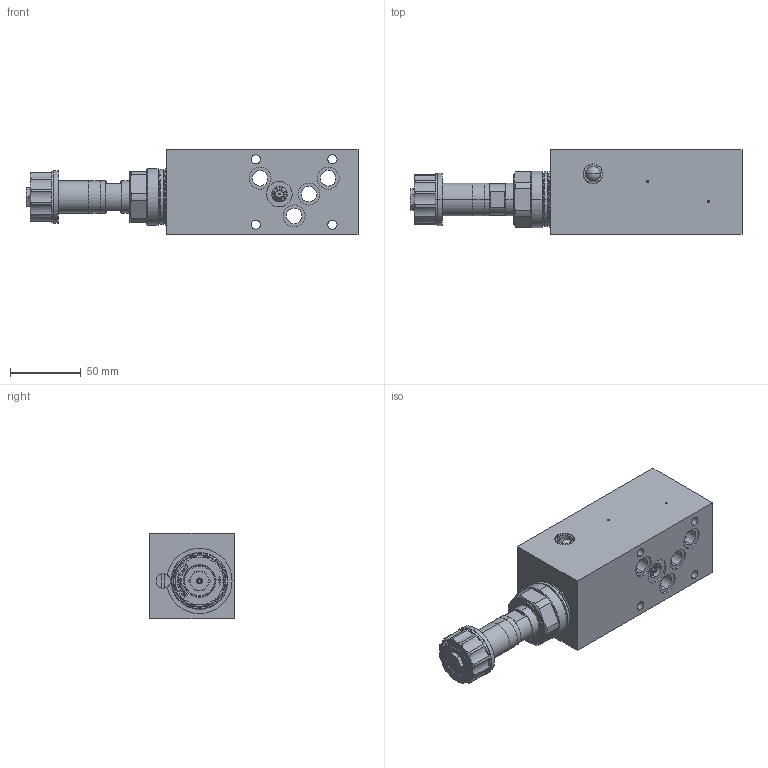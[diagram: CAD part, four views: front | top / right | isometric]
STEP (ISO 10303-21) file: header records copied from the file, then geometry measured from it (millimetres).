
FILE_DESCRIPTION (( 'STEP AP214' ), '1' );
FILE_NAME ('DNPSA10-A.STEP', '2017-04-19T10:53:25', ( '' ), ( '' ), 'SwSTEP 2.0', 'SolidWorks 2016', '' );
FILE_SCHEMA (( 'AUTOMOTIVE_DESIGN' ));
Length unit declared in the file: millimetre
Products named in the file (1): DNPSA10-A
Bounding box: 233.9 x 59.5 x 60 mm (x, y, z)
Volume: 513125.2 mm3; surface area: 71912.6 mm2
Topology: 3 solids, 6 shells, 478 faces, 1197 edges, 768 vertices
Faces by surface type: plane 203, cylinder 149, cone 78, torus 28, bspline 16, sphere 4
Entity records: 20697 total; most frequent: CARTESIAN_POINT 4262, ORIENTED_EDGE 2382, DIRECTION 2358, EDGE_CURVE 1191, AXIS2_PLACEMENT_3D 900, VERTEX_POINT 768, LINE 558, VECTOR 558
